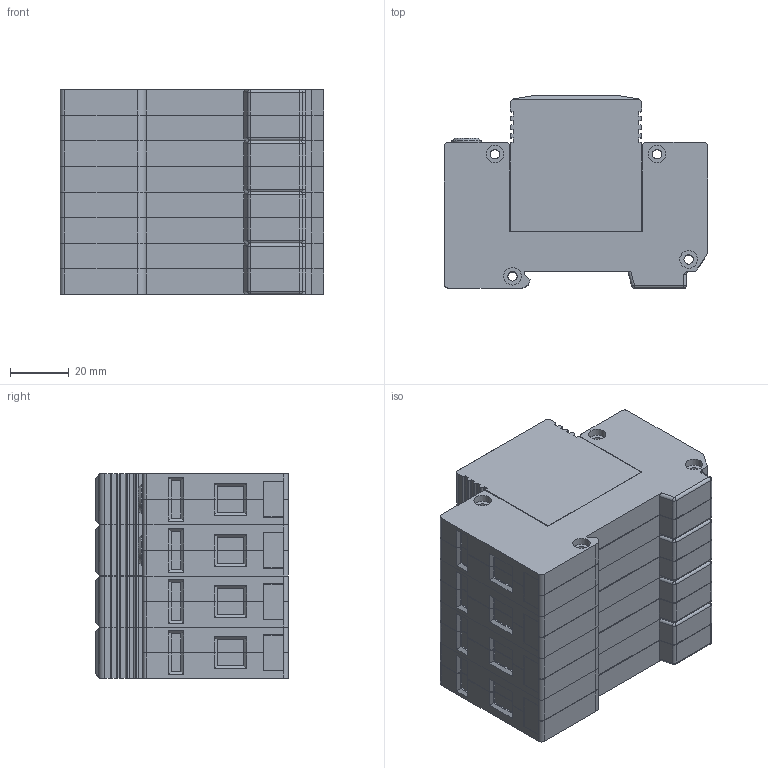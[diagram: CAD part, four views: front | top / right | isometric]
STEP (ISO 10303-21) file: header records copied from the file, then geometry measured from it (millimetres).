
FILE_DESCRIPTION(/* description */ (''),/* implementation_level */ '2;1');
FILE_NAME(/* name */ 'K:\PROJEKTY ROZPRACOVANÉ\MODELY DO KATALOGU\HSA, HLSA 24520, 10007\3D - STEP\HLSA 4+0 M.stp',/* time_stamp */ '2020-03-17T07:37:30+01:00',/* author */ ('M Koliska'),/* organization */ (''),/* preprocessor_version */ 'ST-DEVELOPER v18',/* originating_system */ 'Autodesk Inventor 2020',/* authorisation */ '');
FILE_SCHEMA (('AUTOMOTIVE_DESIGN { 1 0 10303 214 3 1 1 }'));
Length unit declared in the file: millimetre
Products named in the file (6): HLSA 4+0 M; HLSA M; HLSA M_1; HLSA M (Z); HLSA M (Z)_1; DIN 7985 (H) - M5x6-H
Assembly tree (9 placements, depth 3):
  HLSA 4+0 M
    HLSA M  x2
      HLSA M_1
      DIN 7985 (H) - M5x6-H
    HLSA M (Z)  x2
      HLSA M (Z)_1
      DIN 7985 (H) - M5x6-H
Bounding box: 90 x 65.8 x 70 mm (x, y, z)
Volume: 335716.6 mm3; surface area: 81489.1 mm2
Topology: 10 solids, 10 shells, 1420 faces, 4000 edges, 2646 vertices
Faces by surface type: plane 1002, cylinder 278, cone 104, sphere 22, torus 14
Full cylindrical faces by diameter (mm): 3.2 x16, 4.6 x6, 5 x6, 6 x32, 10 x2
Entity records: 20637 total; most frequent: CARTESIAN_POINT 3682, ORIENTED_EDGE 3572, DIRECTION 3431, EDGE_CURVE 1786, LINE 1391, VECTOR 1391, VERTEX_POINT 1179, AXIS2_PLACEMENT_3D 1020
